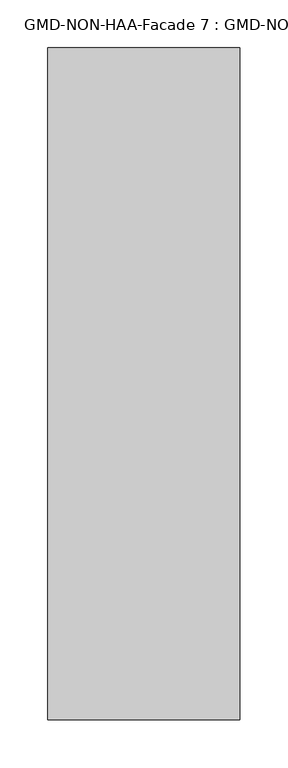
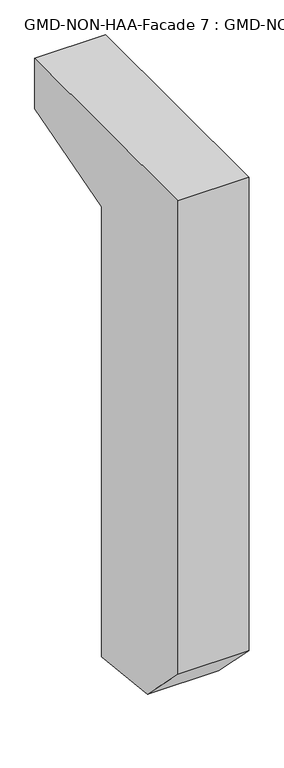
"""IFC4 building model written with IfcOpenShell, lengths in millimetres: proxy geometry, GMD-NON-HAA-Facade 7 : GMD-NON-HAA-Facade 7."""

from ifc_helpers import new_model, si_unit, frame, origin, place, context, project, spatial, polyline, outline, extrude, source, transform, mapped, element, save


def gmd_non_haa_facade_7_gmd_non_haa_facade_7_836f1545(model_context):
    return source(origin(), model_context, "Body", "SweptSolid", [
        extrude(outline(polyline([(0.0, 1585.0), (700.0, 1585.0), (700.0, 1435.0), (375.0, 1340.0), (375.0, 0.0), (149.9846388, 25.0009445), (0.0, 174.9855833), (0.0, 1585.0)])), frame((0.0, 0.0, 0.0), z_axis=(1.0, 0.0, 0.0), x_axis=(0.0, 1.0, 0.0)), (0.0, 0.0, 1.0), 200.0),
    ])


if __name__ == "__main__":
    model = new_model("IFC4")
    model_context = context("Model", 3, world=origin())
    ifc_project = project(units=[si_unit("LENGTHUNIT", "METRE", prefix="MILLI")], contexts=[model_context])
    site = spatial("IfcSite", under=ifc_project)
    building = spatial("IfcBuilding", under=site)
    placement = place(None, origin())
    gmd_non_haa_facade_7_gmd_non_haa_facade_7_shape = gmd_non_haa_facade_7_gmd_non_haa_facade_7_836f1545(model_context)
    element("IfcBuildingElementProxy", 1, Name="GMD-NON-HAA-Facade 7 : GMD-NON-HAA-Facade 7", ObjectType="GMD-NON-HAA-Facade 7 : GMD-NON-HAA-Facade 7", at=placement, inside=building, context=model_context, shape_type="MappedRepresentation", body=[
        mapped(gmd_non_haa_facade_7_gmd_non_haa_facade_7_shape, transform((0.0, 0.0, 0.0), x_axis=(1.0, 0.0, 0.0), y_axis=(0.0, 1.0, 0.0), z_axis=(0.0, 0.0, 1.0))),
    ])
    save(model, "model.ifc")
